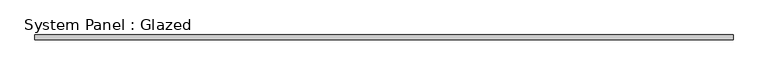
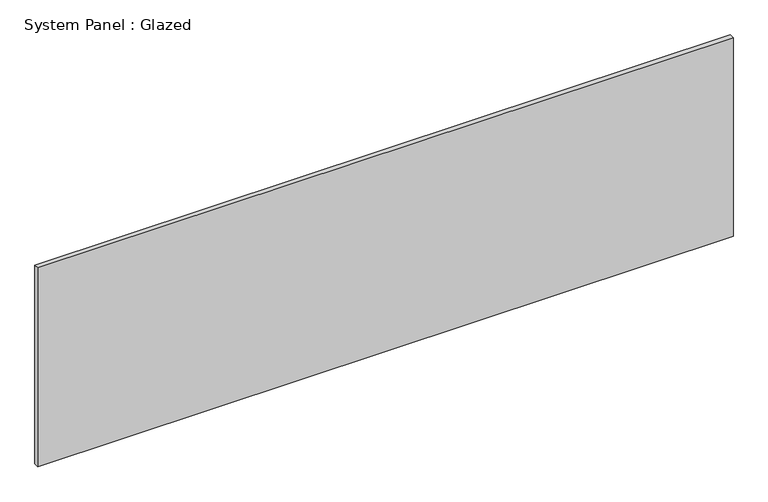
"""IFC4 building model written with IfcOpenShell, lengths in millimetres: plate geometry, System Panel : Glazed."""

from ifc_helpers import new_model, si_unit, origin, origin_with_axes, place, context, project, spatial, polyline, outline, extrude, source, transform, mapped, element, save


def system_panel_glazed_e0ec5d24(model_context):
    return source(origin(), model_context, "Body", "SweptSolid", [
        extrude(outline(polyline([(1862.2565445, 24.5), (-1862.2565445, 24.5), (-1862.2565445, 49.5), (1862.2565445, 49.5), (1862.2565445, 24.5)])), origin_with_axes(), (0.0, 0.0, 1.0), 1125.0),
    ])


if __name__ == "__main__":
    model = new_model("IFC4")
    model_context = context("Model", 3, world=origin())
    ifc_project = project(units=[si_unit("LENGTHUNIT", "METRE", prefix="MILLI")], contexts=[model_context])
    site = spatial("IfcSite", under=ifc_project)
    building = spatial("IfcBuilding", under=site)
    placement = place(None, origin())
    system_panel_glazed_shape = system_panel_glazed_e0ec5d24(model_context)
    element("IfcPlate", 1, ObjectType="System Panel : Glazed", at=placement, inside=building, context=model_context, shape_type="MappedRepresentation", body=[
        mapped(system_panel_glazed_shape, transform((0.0, 0.0, 0.0), x_axis=(1.0, 0.0, 0.0), y_axis=(0.0, 1.0, 0.0), z_axis=(0.0, 0.0, 1.0))),
    ])
    save(model, "model.ifc")
